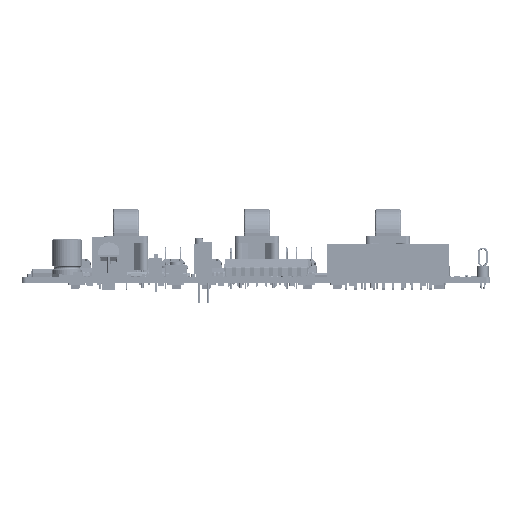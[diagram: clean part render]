
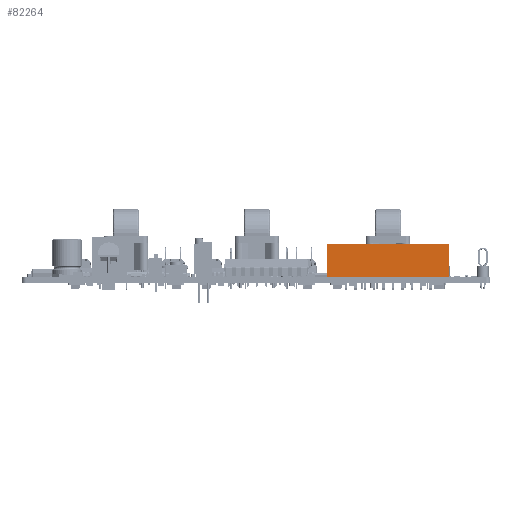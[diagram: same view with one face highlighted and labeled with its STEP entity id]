
A CAD part, left-side view. The second image highlights one B-rep face of the part: STEP entity #82264.
In plain terms, the highlighted planar face has unit normal (-1, 0, 0) as drawn and (0, 1, 0) by its records, which use the part's own axes.
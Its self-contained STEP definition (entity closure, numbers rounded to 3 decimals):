
#77712 = VERTEX_POINT('',#77713);
#77713 = CARTESIAN_POINT('',(-16.51,4.4,0.));
#77719 = EDGE_CURVE('',#77712,#77720,#77722,.T.);
#77720 = VERTEX_POINT('',#77721);
#77721 = CARTESIAN_POINT('',(16.51,4.4,0.));
#77722 = LINE('',#77723,#77724);
#77723 = CARTESIAN_POINT('',(0.,4.4,0.));
#77724 = VECTOR('',#77725,1.);
#77725 = DIRECTION('',(1.,0.,0.));
#82184 = VERTEX_POINT('',#82185);
#82185 = CARTESIAN_POINT('',(16.51,4.4,9.));
#82191 = EDGE_CURVE('',#82184,#82192,#82194,.T.);
#82192 = VERTEX_POINT('',#82193);
#82193 = CARTESIAN_POINT('',(-16.51,4.4,9.));
#82194 = LINE('',#82195,#82196);
#82195 = CARTESIAN_POINT('',(0.,4.4,9.));
#82196 = VECTOR('',#82197,1.);
#82197 = DIRECTION('',(-1.,0.,0.));
#82251 = EDGE_CURVE('',#82192,#77712,#82252,.T.);
#82252 = LINE('',#82253,#82254);
#82253 = CARTESIAN_POINT('',(-16.51,4.4,4.5));
#82254 = VECTOR('',#82255,1.);
#82255 = DIRECTION('',(0.,0.,-1.));
#82264 = ADVANCED_FACE('',(#82265),#82276,.F.);
#82265 = FACE_BOUND('',#82266,.T.);
#82266 = EDGE_LOOP('',(#82267,#82273,#82274,#82275));
#82267 = ORIENTED_EDGE('',*,*,#82268,.T.);
#82268 = EDGE_CURVE('',#82184,#77720,#82269,.T.);
#82269 = LINE('',#82270,#82271);
#82270 = CARTESIAN_POINT('',(16.51,4.4,4.5));
#82271 = VECTOR('',#82272,1.);
#82272 = DIRECTION('',(0.,0.,-1.));
#82273 = ORIENTED_EDGE('',*,*,#77719,.F.);
#82274 = ORIENTED_EDGE('',*,*,#82251,.F.);
#82275 = ORIENTED_EDGE('',*,*,#82191,.F.);
#82276 = PLANE('',#82277);
#82277 = AXIS2_PLACEMENT_3D('',#82278,#82279,#82280);
#82278 = CARTESIAN_POINT('',(0.,4.4,4.5));
#82279 = DIRECTION('',(0.,-1.,0.));
#82280 = DIRECTION('',(0.,0.,-1.));
